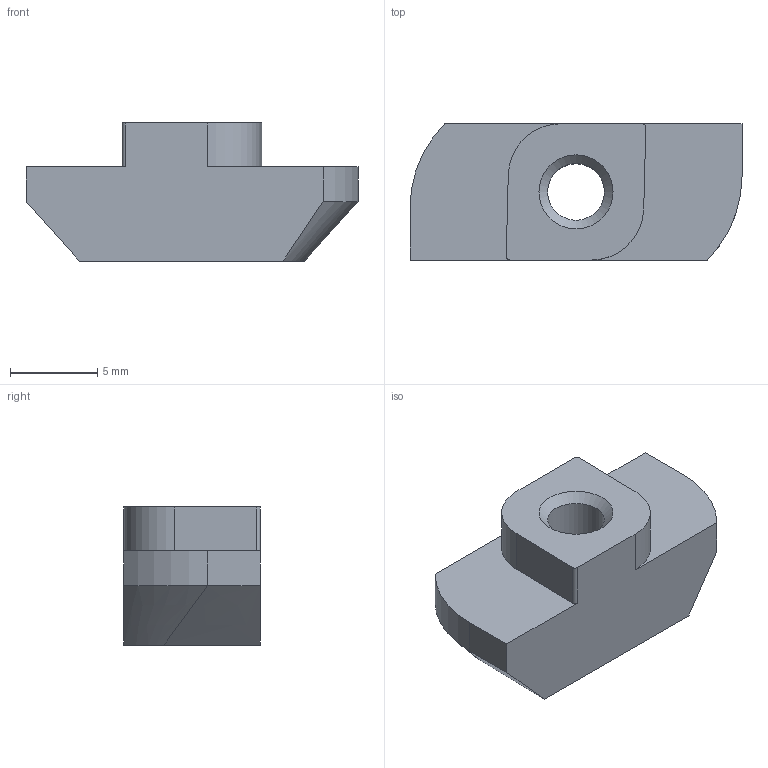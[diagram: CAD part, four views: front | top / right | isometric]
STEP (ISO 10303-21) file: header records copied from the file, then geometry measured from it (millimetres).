
FILE_DESCRIPTION((''),'2;1');
FILE_NAME('E:\catalogue and flyer\Profile catalogue 2015\Accessories JE info\Accessories-JE step file 31MAr16\JE-RN4-8_4040.stp','2016-03-31T16:34:39',('h029'),(''),'Autodesk Inventor 11','Autodesk Inventor 11','');
FILE_SCHEMA(('AUTOMOTIVE_DESIGN { 1 0 10303 214 1 1 1 1 }'));
Length unit declared in the file: millimetre
Products named in the file (1): JE-RN4-8_4040
Bounding box: 19 x 7.8 x 7.9 mm (x, y, z)
Volume: 768.6 mm3; surface area: 643.1 mm2
Topology: 1 solids, 1 shells, 22 faces, 58 edges, 38 vertices
Faces by surface type: plane 10, cylinder 6, bspline 5, cone 1
Entity records: 821 total; most frequent: CARTESIAN_POINT 277, ORIENTED_EDGE 110, DIRECTION 99, EDGE_CURVE 55, VERTEX_POINT 37, AXIS2_PLACEMENT_3D 33, VECTOR 33, LINE 33
